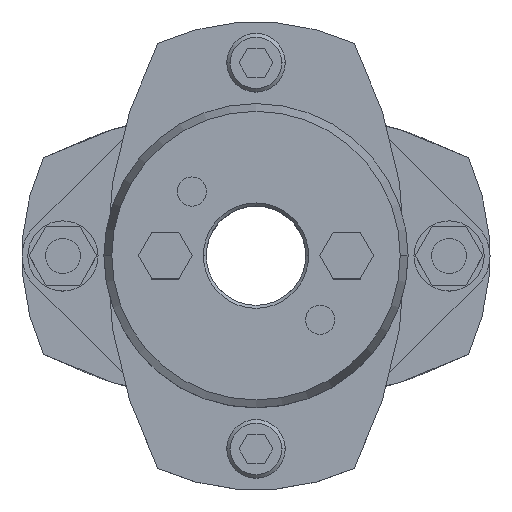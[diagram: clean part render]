
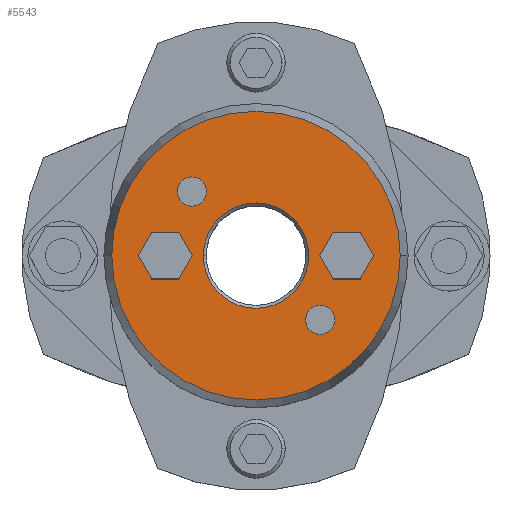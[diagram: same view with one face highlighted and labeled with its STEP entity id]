
A CAD part, top view. The second image highlights one B-rep face of the part: STEP entity #5543.
In plain terms, the highlighted planar face has unit normal (0, 0, 1).
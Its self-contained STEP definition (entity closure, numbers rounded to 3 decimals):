
#857=CARTESIAN_POINT('',(-9.,0.,35.875));
#858=VERTEX_POINT('',#857);
#874=CARTESIAN_POINT('',(9.,0.,35.875));
#875=VERTEX_POINT('',#874);
#882=CARTESIAN_POINT('',(0.,0.,35.875));
#883=DIRECTION('',(0.0,0.0,1.0));
#884=DIRECTION('',(-1.0,0.0,0.0));
#885=AXIS2_PLACEMENT_3D('',#882,#883,#884);
#886=CIRCLE('',#885,9.0);
#887=EDGE_CURVE('',#875,#858,#886,.T.);
#1045=CARTESIAN_POINT('',(24.66,0.,35.875));
#1046=VERTEX_POINT('',#1045);
#1053=CARTESIAN_POINT('',(-24.66,0.,35.875));
#1054=VERTEX_POINT('',#1053);
#1055=CARTESIAN_POINT('',(0.,0.,35.875));
#1056=DIRECTION('',(0.0,0.0,-1.0));
#1057=DIRECTION('',(1.0,0.0,0.0));
#1058=AXIS2_PLACEMENT_3D('',#1055,#1056,#1057);
#1059=CIRCLE('',#1058,24.66);
#1060=EDGE_CURVE('',#1046,#1054,#1059,.T.);
#1155=CARTESIAN_POINT('',(-13.46,10.96,35.875));
#1156=VERTEX_POINT('',#1155);
#1172=CARTESIAN_POINT('',(-8.46,10.96,35.875));
#1173=VERTEX_POINT('',#1172);
#1180=CARTESIAN_POINT('',(-10.96,10.96,35.875));
#1181=DIRECTION('',(0.0,0.0,-1.0));
#1182=DIRECTION('',(-1.0,0.0,0.0));
#1183=AXIS2_PLACEMENT_3D('',#1180,#1181,#1182);
#1184=CIRCLE('',#1183,2.5);
#1185=EDGE_CURVE('',#1156,#1173,#1184,.T.);
#1197=CARTESIAN_POINT('',(8.46,-10.96,35.875));
#1198=VERTEX_POINT('',#1197);
#1214=CARTESIAN_POINT('',(13.46,-10.96,35.875));
#1215=VERTEX_POINT('',#1214);
#1222=CARTESIAN_POINT('',(10.96,-10.96,35.875));
#1223=DIRECTION('',(0.0,0.0,-1.0));
#1224=DIRECTION('',(-1.0,0.0,0.0));
#1225=AXIS2_PLACEMENT_3D('',#1222,#1223,#1224);
#1226=CIRCLE('',#1225,2.5);
#1227=EDGE_CURVE('',#1198,#1215,#1226,.T.);
#4787=CARTESIAN_POINT('',(10.881,0.,35.875));
#4788=VERTEX_POINT('',#4787);
#4795=CARTESIAN_POINT('',(13.191,-4.,35.875));
#4796=VERTEX_POINT('',#4795);
#4797=CARTESIAN_POINT('',(13.191,-4.,35.875));
#4798=DIRECTION('',(-0.5,0.866,0.0));
#4799=VECTOR('',#4798,4.619);
#4800=LINE('',#4797,#4799);
#4801=EDGE_CURVE('',#4796,#4788,#4800,.T.);
#4825=CARTESIAN_POINT('',(13.191,4.,35.875));
#4826=VERTEX_POINT('',#4825);
#4833=CARTESIAN_POINT('',(10.881,0.,35.875));
#4834=DIRECTION('',(0.5,0.866,0.0));
#4835=VECTOR('',#4834,4.619);
#4836=LINE('',#4833,#4835);
#4837=EDGE_CURVE('',#4788,#4826,#4836,.T.);
#4856=CARTESIAN_POINT('',(17.809,4.,35.875));
#4857=VERTEX_POINT('',#4856);
#4864=CARTESIAN_POINT('',(13.191,4.,35.875));
#4865=DIRECTION('',(1.0,0.0,0.0));
#4866=VECTOR('',#4865,4.619);
#4867=LINE('',#4864,#4866);
#4868=EDGE_CURVE('',#4826,#4857,#4867,.T.);
#4887=CARTESIAN_POINT('',(20.119,0.,35.875));
#4888=VERTEX_POINT('',#4887);
#4895=CARTESIAN_POINT('',(17.809,4.,35.875));
#4896=DIRECTION('',(0.5,-0.866,0.0));
#4897=VECTOR('',#4896,4.619);
#4898=LINE('',#4895,#4897);
#4899=EDGE_CURVE('',#4857,#4888,#4898,.T.);
#4918=CARTESIAN_POINT('',(17.809,-4.,35.875));
#4919=VERTEX_POINT('',#4918);
#4926=CARTESIAN_POINT('',(20.119,0.,35.875));
#4927=DIRECTION('',(-0.5,-0.866,0.0));
#4928=VECTOR('',#4927,4.619);
#4929=LINE('',#4926,#4928);
#4930=EDGE_CURVE('',#4888,#4919,#4929,.T.);
#4948=CARTESIAN_POINT('',(17.809,-4.,35.875));
#4949=DIRECTION('',(-1.0,0.0,0.0));
#4950=VECTOR('',#4949,4.619);
#4951=LINE('',#4948,#4950);
#4952=EDGE_CURVE('',#4919,#4796,#4951,.T.);
#4987=CARTESIAN_POINT('',(-20.119,0.,35.875));
#4988=VERTEX_POINT('',#4987);
#4995=CARTESIAN_POINT('',(-17.809,-4.,35.875));
#4996=VERTEX_POINT('',#4995);
#4997=CARTESIAN_POINT('',(-17.809,-4.,35.875));
#4998=DIRECTION('',(-0.5,0.866,0.0));
#4999=VECTOR('',#4998,4.619);
#5000=LINE('',#4997,#4999);
#5001=EDGE_CURVE('',#4996,#4988,#5000,.T.);
#5025=CARTESIAN_POINT('',(-17.809,4.,35.875));
#5026=VERTEX_POINT('',#5025);
#5033=CARTESIAN_POINT('',(-20.119,0.,35.875));
#5034=DIRECTION('',(0.5,0.866,0.0));
#5035=VECTOR('',#5034,4.619);
#5036=LINE('',#5033,#5035);
#5037=EDGE_CURVE('',#4988,#5026,#5036,.T.);
#5056=CARTESIAN_POINT('',(-13.191,4.,35.875));
#5057=VERTEX_POINT('',#5056);
#5064=CARTESIAN_POINT('',(-17.809,4.,35.875));
#5065=DIRECTION('',(1.0,0.0,0.0));
#5066=VECTOR('',#5065,4.619);
#5067=LINE('',#5064,#5066);
#5068=EDGE_CURVE('',#5026,#5057,#5067,.T.);
#5087=CARTESIAN_POINT('',(-10.881,0.,35.875));
#5088=VERTEX_POINT('',#5087);
#5095=CARTESIAN_POINT('',(-13.191,4.,35.875));
#5096=DIRECTION('',(0.5,-0.866,0.0));
#5097=VECTOR('',#5096,4.619);
#5098=LINE('',#5095,#5097);
#5099=EDGE_CURVE('',#5057,#5088,#5098,.T.);
#5118=CARTESIAN_POINT('',(-13.191,-4.,35.875));
#5119=VERTEX_POINT('',#5118);
#5126=CARTESIAN_POINT('',(-10.881,0.,35.875));
#5127=DIRECTION('',(-0.5,-0.866,0.0));
#5128=VECTOR('',#5127,4.619);
#5129=LINE('',#5126,#5128);
#5130=EDGE_CURVE('',#5088,#5119,#5129,.T.);
#5148=CARTESIAN_POINT('',(-13.191,-4.,35.875));
#5149=DIRECTION('',(-1.0,0.0,0.0));
#5150=VECTOR('',#5149,4.619);
#5151=LINE('',#5148,#5150);
#5152=EDGE_CURVE('',#5119,#4996,#5151,.T.);
#5178=CARTESIAN_POINT('',(10.96,-10.96,35.875));
#5179=DIRECTION('',(0.0,0.0,-1.0));
#5180=DIRECTION('',(-1.0,0.0,0.0));
#5181=AXIS2_PLACEMENT_3D('',#5178,#5179,#5180);
#5182=CIRCLE('',#5181,2.5);
#5183=EDGE_CURVE('',#1215,#1198,#5182,.T.);
#5212=CARTESIAN_POINT('',(-10.96,10.96,35.875));
#5213=DIRECTION('',(0.0,0.0,-1.0));
#5214=DIRECTION('',(-1.0,0.0,0.0));
#5215=AXIS2_PLACEMENT_3D('',#5212,#5213,#5214);
#5216=CIRCLE('',#5215,2.5);
#5217=EDGE_CURVE('',#1173,#1156,#5216,.T.);
#5490=CARTESIAN_POINT('',(0.,0.,35.875));
#5491=DIRECTION('',(0.0,0.0,-1.0));
#5492=DIRECTION('',(1.0,0.0,0.0));
#5493=AXIS2_PLACEMENT_3D('',#5490,#5491,#5492);
#5494=CIRCLE('',#5493,24.66);
#5495=EDGE_CURVE('',#1054,#1046,#5494,.T.);
#5500=CARTESIAN_POINT('',(-2.364,0.,35.875));
#5501=DIRECTION('',(0.0,0.0,1.0));
#5502=DIRECTION('',(-1.0,0.0,0.0));
#5503=AXIS2_PLACEMENT_3D('',#5500,#5501,#5502);
#5504=PLANE('',#5503);
#5505=ORIENTED_EDGE('',*,*,#5495,.F.);
#5506=ORIENTED_EDGE('',*,*,#1060,.F.);
#5507=EDGE_LOOP('',(#5505,#5506));
#5508=FACE_OUTER_BOUND('',#5507,.T.);
#5509=ORIENTED_EDGE('',*,*,#4801,.T.);
#5510=ORIENTED_EDGE('',*,*,#4837,.T.);
#5511=ORIENTED_EDGE('',*,*,#4868,.T.);
#5512=ORIENTED_EDGE('',*,*,#4899,.T.);
#5513=ORIENTED_EDGE('',*,*,#4930,.T.);
#5514=ORIENTED_EDGE('',*,*,#4952,.T.);
#5515=EDGE_LOOP('',(#5509,#5510,#5511,#5512,#5513,#5514));
#5516=FACE_BOUND('',#5515,.T.);
#5517=ORIENTED_EDGE('',*,*,#5001,.T.);
#5518=ORIENTED_EDGE('',*,*,#5037,.T.);
#5519=ORIENTED_EDGE('',*,*,#5068,.T.);
#5520=ORIENTED_EDGE('',*,*,#5099,.T.);
#5521=ORIENTED_EDGE('',*,*,#5130,.T.);
#5522=ORIENTED_EDGE('',*,*,#5152,.T.);
#5523=EDGE_LOOP('',(#5517,#5518,#5519,#5520,#5521,#5522));
#5524=FACE_BOUND('',#5523,.T.);
#5525=ORIENTED_EDGE('',*,*,#1227,.T.);
#5526=ORIENTED_EDGE('',*,*,#5183,.T.);
#5527=EDGE_LOOP('',(#5525,#5526));
#5528=FACE_BOUND('',#5527,.T.);
#5529=ORIENTED_EDGE('',*,*,#1185,.T.);
#5530=ORIENTED_EDGE('',*,*,#5217,.T.);
#5531=EDGE_LOOP('',(#5529,#5530));
#5532=FACE_BOUND('',#5531,.T.);
#5533=ORIENTED_EDGE('',*,*,#887,.F.);
#5534=CARTESIAN_POINT('',(0.,0.,35.875));
#5535=DIRECTION('',(0.0,0.0,1.0));
#5536=DIRECTION('',(-1.0,0.0,0.0));
#5537=AXIS2_PLACEMENT_3D('',#5534,#5535,#5536);
#5538=CIRCLE('',#5537,9.0);
#5539=EDGE_CURVE('',#858,#875,#5538,.T.);
#5540=ORIENTED_EDGE('',*,*,#5539,.F.);
#5541=EDGE_LOOP('',(#5533,#5540));
#5542=FACE_BOUND('',#5541,.T.);
#5543=ADVANCED_FACE('',(#5508,#5516,#5524,#5528,#5532,#5542),#5504,.T.);
